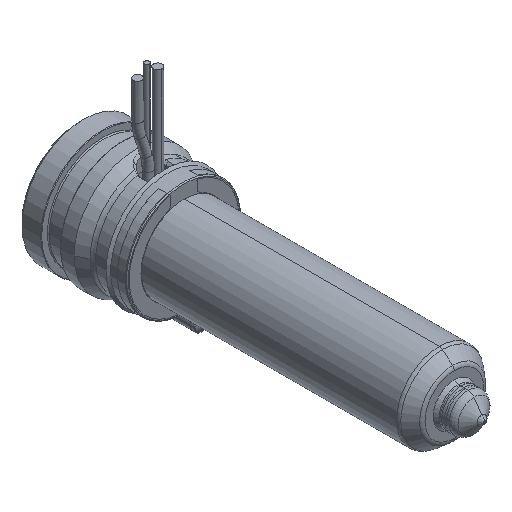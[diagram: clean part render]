
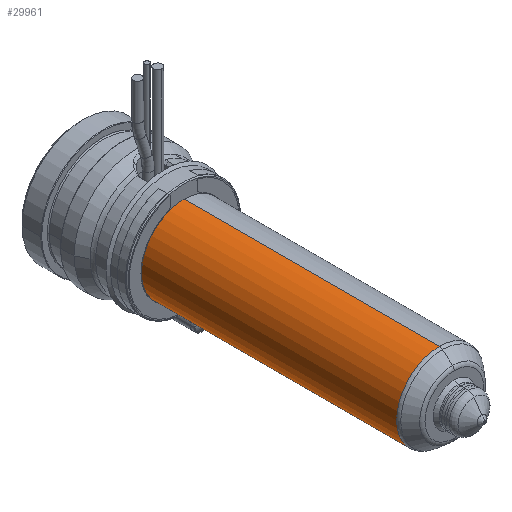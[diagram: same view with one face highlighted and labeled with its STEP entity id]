
A CAD part, isometric view. The second image highlights one B-rep face of the part: STEP entity #29961.
In plain terms, the highlighted cylindrical face has radius 9 mm (diameter 18 mm), a partial arc.
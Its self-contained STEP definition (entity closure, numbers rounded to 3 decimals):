
#29408=CARTESIAN_POINT('',(0.,-75.836,0.));
#29409=DIRECTION('',(0.,-1.,0.));
#29410=DIRECTION('',(0.,0.,1.));
#29411=AXIS2_PLACEMENT_3D('',#29408,#29409,#29410);
#29416=CARTESIAN_POINT('',(0.,-22.,0.));
#29417=DIRECTION('',(0.,-1.,0.));
#29418=DIRECTION('',(0.,0.,1.));
#29419=AXIS2_PLACEMENT_3D('',#29416,#29417,#29418);
#29424=DIRECTION('',(0.,-1.,0.));
#29425=VECTOR('',#29424,53.836);
#29426=CARTESIAN_POINT('',(0.,-22.,9.));
#29427=LINE('',#29426,#29425);
#29439=DIRECTION('',(0.,-1.,0.));
#29440=VECTOR('',#29439,53.836);
#29441=CARTESIAN_POINT('',(0.,-22.,-9.));
#29442=LINE('',#29441,#29440);
#29642=CARTESIAN_POINT('',(0.,-22.,9.));
#29643=CARTESIAN_POINT('',(0.,-75.836,9.));
#29644=VERTEX_POINT('',#29642);
#29645=VERTEX_POINT('',#29643);
#29664=CARTESIAN_POINT('',(0.,-22.,-9.));
#29665=CARTESIAN_POINT('',(0.,-75.836,-9.));
#29666=VERTEX_POINT('',#29664);
#29667=VERTEX_POINT('',#29665);
#29947=CARTESIAN_POINT('',(0.,-14.625,0.));
#29948=DIRECTION('',(0.,-1.,0.));
#29949=DIRECTION('',(0.,0.,1.));
#29950=AXIS2_PLACEMENT_3D('',#29947,#29948,#29949);
#29951=CYLINDRICAL_SURFACE('',#29950,9.);
#29953=ORIENTED_EDGE('',*,*,#29952,.T.);
#29954=ORIENTED_EDGE('',*,*,#29942,.T.);
#29956=ORIENTED_EDGE('',*,*,#29955,.F.);
#29958=ORIENTED_EDGE('',*,*,#29957,.F.);
#29959=EDGE_LOOP('',(#29953,#29954,#29956,#29958));
#29960=FACE_OUTER_BOUND('',#29959,.F.);
#29961=ADVANCED_FACE('',(#29960),#29951,.T.);
#29412=CIRCLE('',#29411,9.);
#29420=CIRCLE('',#29419,9.);
#29942=EDGE_CURVE('',#29645,#29667,#29412,.T.);
#29952=EDGE_CURVE('',#29644,#29645,#29427,.T.);
#29955=EDGE_CURVE('',#29666,#29667,#29442,.T.);
#29957=EDGE_CURVE('',#29644,#29666,#29420,.T.);
